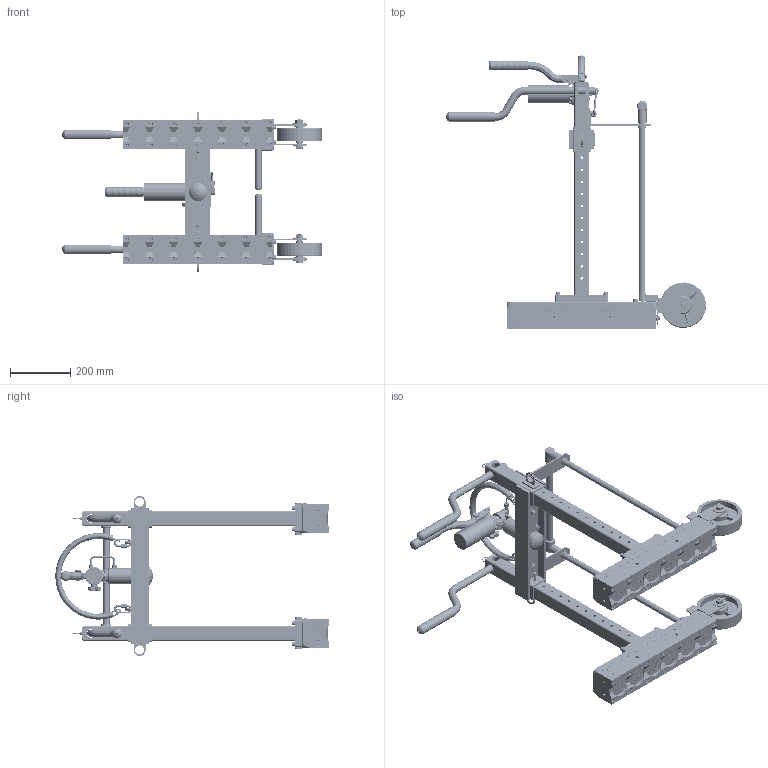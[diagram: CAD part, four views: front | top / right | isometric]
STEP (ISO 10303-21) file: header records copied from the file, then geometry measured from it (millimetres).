
FILE_DESCRIPTION (( 'STEP AP214' ), '1' );
FILE_NAME ('81001171_p.STEP', '2019-04-19T15:17:17', ( '' ), ( '' ), 'SwSTEP 2.0', 'SolidWorks 2018', '' );
FILE_SCHEMA (( 'AUTOMOTIVE_DESIGN' ));
Length unit declared in the file: millimetre
Products named in the file (1): 81001171_p
Bounding box: 860.81 x 905.21 x 530 mm (x, y, z)
Surface area: 2571455.7 mm2 (no closed solid volume)
Topology: 0 solids, 276 shells, 21374 faces, 54090 edges, 34501 vertices
Faces by surface type: plane 8980, bspline 5805, cylinder 3684, cone 2346, torus 484, sphere 75
Entity records: 1208178 total; most frequent: CARTESIAN_POINT 504897, ORIENTED_EDGE 107704, DIRECTION 77016, EDGE_CURVE 53852, VERTEX_POINT 34497, LINE 29966, VECTOR 29966, AXIS2_PLACEMENT_3D 23525
